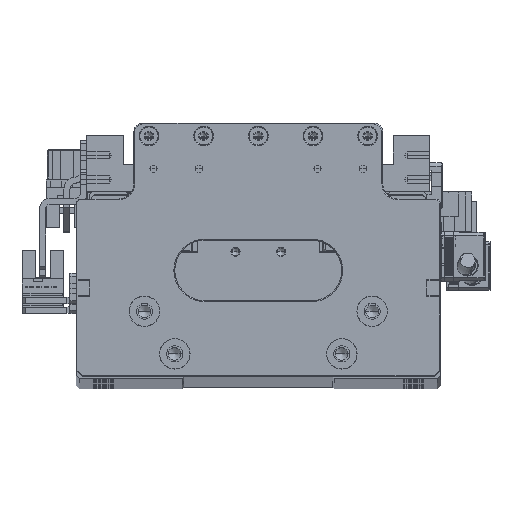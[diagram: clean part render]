
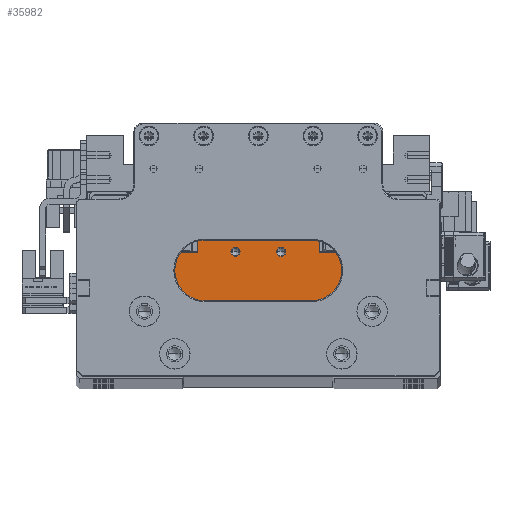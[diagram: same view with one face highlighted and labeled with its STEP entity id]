
A CAD part, top view. The second image highlights one B-rep face of the part: STEP entity #35982.
In plain terms, the highlighted planar face has unit normal (0, 0, 1).
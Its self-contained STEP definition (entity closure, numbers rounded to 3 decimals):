
#2074 = EDGE_CURVE ( 'NONE', #82478, #79544, #43571, .T. ) ;
#2620 = DIRECTION ( 'NONE',  ( -1., 0., 0. ) ) ;
#3894 = VERTEX_POINT ( 'NONE', #77205 ) ;
#5509 = CARTESIAN_POINT ( 'NONE',  ( 7.5, 25.8, 83.854 ) ) ;
#5647 = LINE ( 'NONE', #36657, #115983 ) ;
#7351 = CARTESIAN_POINT ( 'NONE',  ( 9.025, 25.8, 83.854 ) ) ;
#9356 = ORIENTED_EDGE ( 'NONE', *, *, #34613, .F. ) ;
#9853 = CIRCLE ( 'NONE', #33309, 1.525 ) ;
#10238 = CARTESIAN_POINT ( 'NONE',  ( -7.5, 29.7, 83.854 ) ) ;
#10596 = EDGE_LOOP ( 'NONE', ( #9356, #88250 ) ) ;
#10710 = VERTEX_POINT ( 'NONE', #122007 ) ;
#12250 = VERTEX_POINT ( 'NONE', #112746 ) ;
#14019 = VERTEX_POINT ( 'NONE', #25863 ) ;
#15669 = DIRECTION ( 'NONE',  ( 1., 0., 0. ) ) ;
#18083 = CIRCLE ( 'NONE', #95857, 1.525 ) ;
#18512 = EDGE_CURVE ( 'NONE', #107969, #14019, #66409, .T. ) ;
#19335 = EDGE_CURVE ( 'NONE', #64422, #82478, #37874, .T. ) ;
#19401 = CARTESIAN_POINT ( 'NONE',  ( -7.5, 25.8, 83.854 ) ) ;
#23075 = ORIENTED_EDGE ( 'NONE', *, *, #104874, .T. ) ;
#24945 = CARTESIAN_POINT ( 'NONE',  ( 7.5, 25.8, 83.854 ) ) ;
#25863 = CARTESIAN_POINT ( 'NONE',  ( -5.975, 25.8, 83.854 ) ) ;
#26754 = CARTESIAN_POINT ( 'NONE',  ( 29.9, 18.2, 83.854 ) ) ;
#26854 = VERTEX_POINT ( 'NONE', #113635 ) ;
#26867 = CARTESIAN_POINT ( 'NONE',  ( -20., 25.7, 83.854 ) ) ;
#28050 = EDGE_LOOP ( 'NONE', ( #77324, #96558 ) ) ;
#28241 = EDGE_CURVE ( 'NONE', #79544, #10710, #98705, .T. ) ;
#29465 = DIRECTION ( 'NONE',  ( 1., 0., 0. ) ) ;
#32275 = VECTOR ( 'NONE', #78280, 1000. ) ;
#32513 = PLANE ( 'NONE',  #42756 ) ;
#33309 = AXIS2_PLACEMENT_3D ( 'NONE', #24945, #95403, #35042 ) ;
#33447 = FACE_BOUND ( 'NONE', #28050, .T. ) ;
#34613 = EDGE_CURVE ( 'NONE', #14019, #107969, #18083, .T. ) ;
#35042 = DIRECTION ( 'NONE',  ( 1., 0., 0. ) ) ;
#35474 = VERTEX_POINT ( 'NONE', #122217 ) ;
#35982 = ADVANCED_FACE ( 'NONE', ( #110724, #33447, #87010 ), #32513, .F. ) ;
#36657 = CARTESIAN_POINT ( 'NONE',  ( -7.5, 25.7, 83.854 ) ) ;
#36845 = DIRECTION ( 'NONE',  ( 0., -1., 0. ) ) ;
#36978 = VECTOR ( 'NONE', #36845, 1000. ) ;
#37841 = ORIENTED_EDGE ( 'NONE', *, *, #57097, .F. ) ;
#37874 = LINE ( 'NONE', #38960, #91476 ) ;
#38960 = CARTESIAN_POINT ( 'NONE',  ( -20., 18.2, 83.854 ) ) ;
#40743 = EDGE_LOOP ( 'NONE', ( #94772, #125083, #23075, #59581, #37841, #42814, #74472, #45545 ) ) ;
#42556 = VECTOR ( 'NONE', #113612, 1000. ) ;
#42756 = AXIS2_PLACEMENT_3D ( 'NONE', #123274, #62865, #2620 ) ;
#42814 = ORIENTED_EDGE ( 'NONE', *, *, #28241, .F. ) ;
#43571 = LINE ( 'NONE', #10238, #94023 ) ;
#45545 = ORIENTED_EDGE ( 'NONE', *, *, #19335, .F. ) ;
#45707 = LINE ( 'NONE', #103470, #42556 ) ;
#47693 = VERTEX_POINT ( 'NONE', #7351 ) ;
#48350 = CARTESIAN_POINT ( 'NONE',  ( -7.5, 25.7, 83.854 ) ) ;
#49027 = VERTEX_POINT ( 'NONE', #126053 ) ;
#50851 = DIRECTION ( 'NONE',  ( 0., 0., 1. ) ) ;
#57097 = EDGE_CURVE ( 'NONE', #10710, #26854, #82663, .T. ) ;
#59225 = EDGE_CURVE ( 'NONE', #12250, #47693, #9853, .T. ) ;
#59581 = ORIENTED_EDGE ( 'NONE', *, *, #75487, .F. ) ;
#62065 = CARTESIAN_POINT ( 'NONE',  ( 20., 18.2, 83.854 ) ) ;
#62865 = DIRECTION ( 'NONE',  ( 0., 0., -1. ) ) ;
#64422 = VERTEX_POINT ( 'NONE', #26867 ) ;
#66409 = CIRCLE ( 'NONE', #86165, 1.525 ) ;
#70515 = DIRECTION ( 'NONE',  ( 1., 0., 0. ) ) ;
#74472 = ORIENTED_EDGE ( 'NONE', *, *, #2074, .F. ) ;
#75487 = EDGE_CURVE ( 'NONE', #26854, #35474, #117387, .T. ) ;
#75898 = DIRECTION ( 'NONE',  ( 0., 0., 1. ) ) ;
#77205 = CARTESIAN_POINT ( 'NONE',  ( -29.9, 6.5, 83.854 ) ) ;
#77324 = ORIENTED_EDGE ( 'NONE', *, *, #114531, .F. ) ;
#78280 = DIRECTION ( 'NONE',  ( 1., 0., 0. ) ) ;
#78375 = CARTESIAN_POINT ( 'NONE',  ( 20., 29.7, 83.854 ) ) ;
#79544 = VERTEX_POINT ( 'NONE', #78375 ) ;
#81706 = VECTOR ( 'NONE', #99823, 1000. ) ;
#82478 = VERTEX_POINT ( 'NONE', #126553 ) ;
#82549 = EDGE_CURVE ( 'NONE', #49027, #64422, #5647, .T. ) ;
#82663 = LINE ( 'NONE', #48350, #32275 ) ;
#84924 = LINE ( 'NONE', #89664, #81706 ) ;
#86165 = AXIS2_PLACEMENT_3D ( 'NONE', #111297, #50851, #121424 ) ;
#87010 = FACE_BOUND ( 'NONE', #10596, .T. ) ;
#87555 = CARTESIAN_POINT ( 'NONE',  ( -9.025, 25.8, 83.854 ) ) ;
#88250 = ORIENTED_EDGE ( 'NONE', *, *, #18512, .F. ) ;
#89213 = CIRCLE ( 'NONE', #109328, 1.525 ) ;
#89601 = DIRECTION ( 'NONE',  ( 0., 1., 0. ) ) ;
#89664 = CARTESIAN_POINT ( 'NONE',  ( -7.5, 6.5, 83.854 ) ) ;
#89807 = DIRECTION ( 'NONE',  ( 0., 0., 1. ) ) ;
#91347 = EDGE_CURVE ( 'NONE', #3894, #49027, #45707, .T. ) ;
#91476 = VECTOR ( 'NONE', #89601, 1000. ) ;
#94023 = VECTOR ( 'NONE', #70515, 1000. ) ;
#94772 = ORIENTED_EDGE ( 'NONE', *, *, #82549, .F. ) ;
#95403 = DIRECTION ( 'NONE',  ( 0., 0., 1. ) ) ;
#95857 = AXIS2_PLACEMENT_3D ( 'NONE', #19401, #89807, #29465 ) ;
#96558 = ORIENTED_EDGE ( 'NONE', *, *, #59225, .F. ) ;
#98705 = LINE ( 'NONE', #62065, #122328 ) ;
#99823 = DIRECTION ( 'NONE',  ( 1., 0., 0. ) ) ;
#103470 = CARTESIAN_POINT ( 'NONE',  ( -29.9, 18.2, 83.854 ) ) ;
#104874 = EDGE_CURVE ( 'NONE', #3894, #35474, #84924, .T. ) ;
#107969 = VERTEX_POINT ( 'NONE', #87555 ) ;
#109328 = AXIS2_PLACEMENT_3D ( 'NONE', #5509, #75898, #15669 ) ;
#110724 = FACE_OUTER_BOUND ( 'NONE', #40743, .T. ) ;
#111297 = CARTESIAN_POINT ( 'NONE',  ( -7.5, 25.8, 83.854 ) ) ;
#112746 = CARTESIAN_POINT ( 'NONE',  ( 5.975, 25.8, 83.854 ) ) ;
#113612 = DIRECTION ( 'NONE',  ( 0., 1., 0. ) ) ;
#113635 = CARTESIAN_POINT ( 'NONE',  ( 29.9, 25.7, 83.854 ) ) ;
#114531 = EDGE_CURVE ( 'NONE', #47693, #12250, #89213, .T. ) ;
#115983 = VECTOR ( 'NONE', #117298, 1000. ) ;
#117298 = DIRECTION ( 'NONE',  ( 1., 0., 0. ) ) ;
#117387 = LINE ( 'NONE', #26754, #36978 ) ;
#121424 = DIRECTION ( 'NONE',  ( 1., 0., 0. ) ) ;
#122007 = CARTESIAN_POINT ( 'NONE',  ( 20., 25.7, 83.854 ) ) ;
#122050 = DIRECTION ( 'NONE',  ( 0., -1., 0. ) ) ;
#122217 = CARTESIAN_POINT ( 'NONE',  ( 29.9, 6.5, 83.854 ) ) ;
#122328 = VECTOR ( 'NONE', #122050, 1000. ) ;
#123274 = CARTESIAN_POINT ( 'NONE',  ( -7.5, 18.2, 83.854 ) ) ;
#125083 = ORIENTED_EDGE ( 'NONE', *, *, #91347, .F. ) ;
#126053 = CARTESIAN_POINT ( 'NONE',  ( -29.9, 25.7, 83.854 ) ) ;
#126553 = CARTESIAN_POINT ( 'NONE',  ( -20., 29.7, 83.854 ) ) ;
